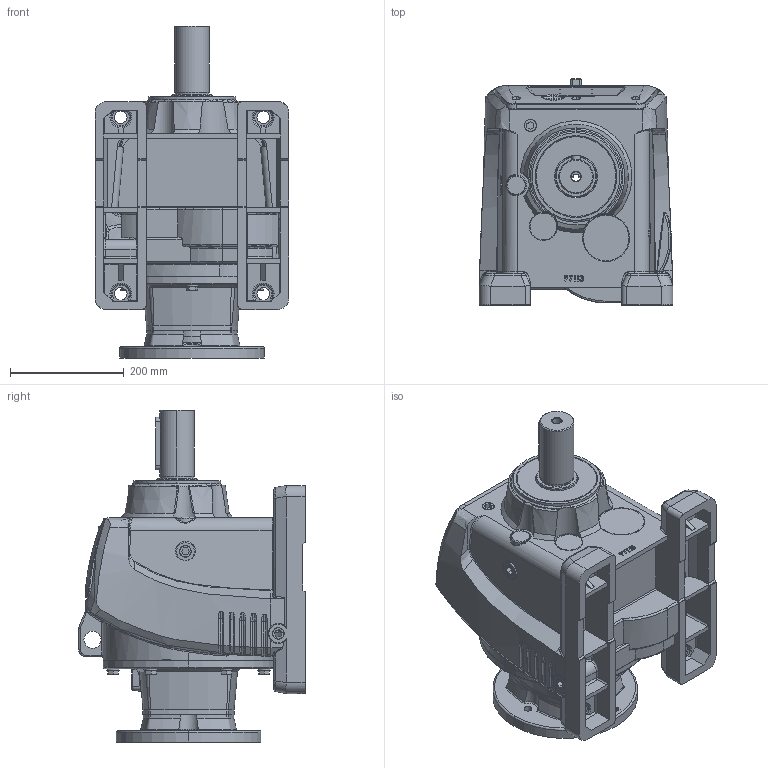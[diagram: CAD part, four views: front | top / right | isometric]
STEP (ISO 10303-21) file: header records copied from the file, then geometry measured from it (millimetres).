
FILE_DESCRIPTION (( 'STEP AP203' ), '1' );
FILE_NAME ('WINL97-254-6TC.STEP', '2013-09-26T10:06:36', ( 'User' ), ( 'Chenta' ), 'SwSTEP 2.0', 'SolidWorks 2011', '' );
FILE_SCHEMA (( 'CONFIG_CONTROL_DESIGN' ));
Products named in the file (1): WINL97-254-6TC
Bounding box: 340 x 397 x 582.5 mm (x, y, z)
Surface area: 1130936 mm2 (no closed solid volume)
Topology: 0 solids, 43 shells, 1227 faces, 3682 edges, 2440 vertices
Faces by surface type: plane 379, bspline 315, cylinder 300, cone 112, torus 107, sphere 14
Entity records: 67993 total; most frequent: CARTESIAN_POINT 37944, ORIENTED_EDGE 6570, DIRECTION 5374, EDGE_CURVE 3670, VERTEX_POINT 2440, AXIS2_PLACEMENT_3D 2009, LINE 1356, VECTOR 1356
